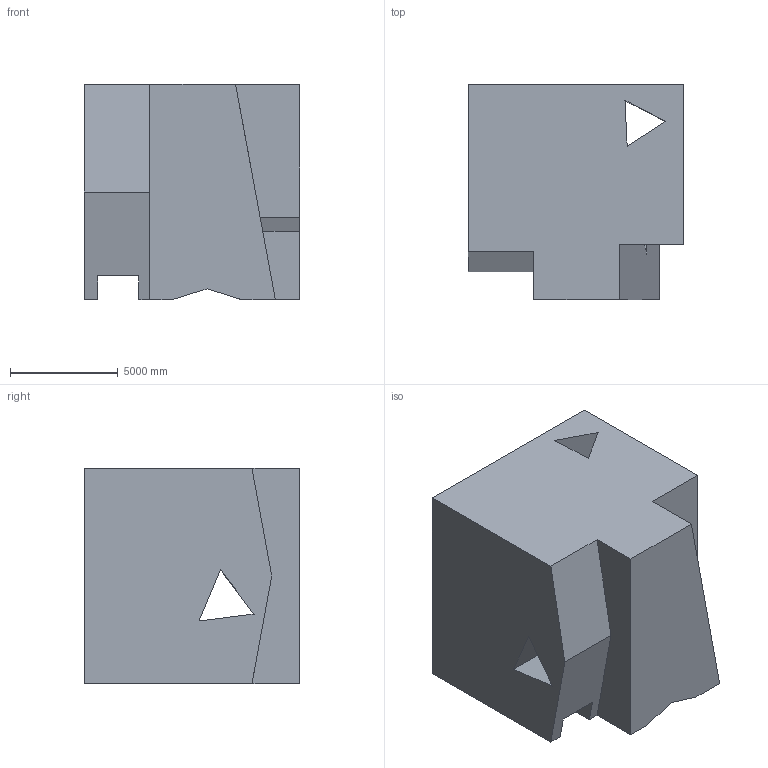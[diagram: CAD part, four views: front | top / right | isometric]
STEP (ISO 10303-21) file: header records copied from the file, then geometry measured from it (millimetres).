
FILE_DESCRIPTION (( 'STEP AP203' ), '1' );
FILE_NAME ('540.STEP', '2022-07-29T11:43:40', ( 'user' ), ( '' ), 'SwSTEP 2.0', 'SolidWorks 2021', '' );
FILE_SCHEMA (( 'CONFIG_CONTROL_DESIGN' ));
Length unit declared in the file: centimetre
Products named in the file (1): 540
Bounding box: 10000 x 10000 x 10000 mm (x, y, z)
Volume: 821416367766.7 mm3; surface area: 718509591.2 mm2
Topology: 1 solids, 1 shells, 25 faces, 75 edges, 50 vertices
Faces by surface type: plane 25
Entity records: 914 total; most frequent: CARTESIAN_POINT 151, ORIENTED_EDGE 150, DIRECTION 127, EDGE_CURVE 75, LINE 75, VECTOR 75, VERTEX_POINT 50, EDGE_LOOP 27
